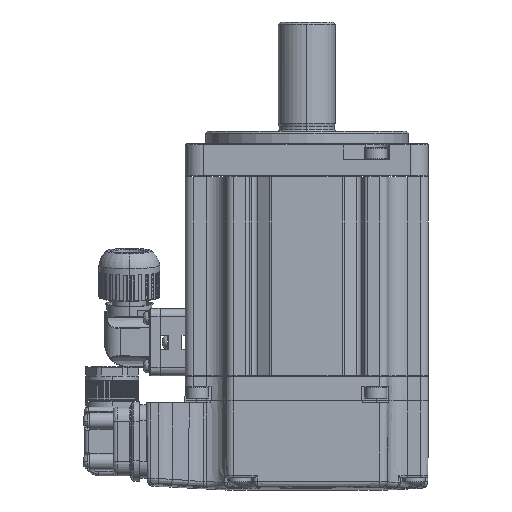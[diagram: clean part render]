
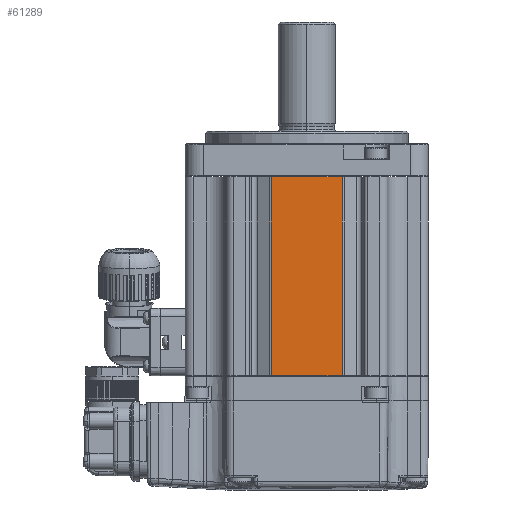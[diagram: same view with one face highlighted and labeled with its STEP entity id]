
A CAD part, front view. The second image highlights one B-rep face of the part: STEP entity #61289.
In plain terms, the highlighted planar face has unit normal (0, -1, 0).
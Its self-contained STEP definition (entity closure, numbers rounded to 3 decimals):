
#1745 = EDGE_LOOP ( 'NONE', ( #68806, #43799, #16950, #26592 ) ) ;
#7729 = LINE ( 'NONE', #25865, #7918 ) ;
#7918 = VECTOR ( 'NONE', #23428, 1000. ) ;
#11913 = EDGE_CURVE ( 'NONE', #24521, #19384, #7729, .T. ) ;
#16950 = ORIENTED_EDGE ( 'NONE', *, *, #28083, .T. ) ;
#19384 = VERTEX_POINT ( 'NONE', #86135 ) ;
#23428 = DIRECTION ( 'NONE',  ( 0., 0., 1. ) ) ;
#24521 = VERTEX_POINT ( 'NONE', #78264 ) ;
#25865 = CARTESIAN_POINT ( 'NONE',  ( 8.752, -30., -68.25 ) ) ;
#25944 = CARTESIAN_POINT ( 'NONE',  ( 20., -30., -18.2 ) ) ;
#26592 = ORIENTED_EDGE ( 'NONE', *, *, #59330, .T. ) ;
#27565 = VERTEX_POINT ( 'NONE', #55011 ) ;
#28083 = EDGE_CURVE ( 'NONE', #27565, #64351, #56682, .T. ) ;
#34661 = VECTOR ( 'NONE', #77059, 1000. ) ;
#43799 = ORIENTED_EDGE ( 'NONE', *, *, #94087, .T. ) ;
#44697 = CARTESIAN_POINT ( 'NONE',  ( -8.752, -30., -68.25 ) ) ;
#45194 = DIRECTION ( 'NONE',  ( 0., 0., -1. ) ) ;
#47141 = DIRECTION ( 'NONE',  ( 1., 0., 0. ) ) ;
#47256 = CARTESIAN_POINT ( 'NONE',  ( 8.752, -30., -67.3 ) ) ;
#55011 = CARTESIAN_POINT ( 'NONE',  ( -8.752, -30., -18.2 ) ) ;
#56682 = LINE ( 'NONE', #44697, #57974 ) ;
#57974 = VECTOR ( 'NONE', #45194, 1000. ) ;
#59330 = EDGE_CURVE ( 'NONE', #64351, #24521, #66605, .T. ) ;
#60975 = AXIS2_PLACEMENT_3D ( 'NONE', #65515, #84585, #84466 ) ;
#61289 = ADVANCED_FACE ( 'NONE', ( #83267 ), #85328, .F. ) ;
#63247 = CARTESIAN_POINT ( 'NONE',  ( -8.752, -30., -67.3 ) ) ;
#64351 = VERTEX_POINT ( 'NONE', #63247 ) ;
#64944 = VECTOR ( 'NONE', #47141, 1000. ) ;
#65515 = CARTESIAN_POINT ( 'NONE',  ( 20., -30., -68.25 ) ) ;
#66605 = LINE ( 'NONE', #47256, #64944 ) ;
#68806 = ORIENTED_EDGE ( 'NONE', *, *, #11913, .T. ) ;
#77059 = DIRECTION ( 'NONE',  ( -1., 0., 0. ) ) ;
#78264 = CARTESIAN_POINT ( 'NONE',  ( 8.752, -30., -67.3 ) ) ;
#83267 = FACE_OUTER_BOUND ( 'NONE', #1745, .T. ) ;
#84466 = DIRECTION ( 'NONE',  ( 0., 0., -1. ) ) ;
#84585 = DIRECTION ( 'NONE',  ( 0., 1., 0. ) ) ;
#85328 = PLANE ( 'NONE',  #60975 ) ;
#86135 = CARTESIAN_POINT ( 'NONE',  ( 8.752, -30., -18.2 ) ) ;
#90359 = LINE ( 'NONE', #25944, #34661 ) ;
#94087 = EDGE_CURVE ( 'NONE', #19384, #27565, #90359, .T. ) ;
